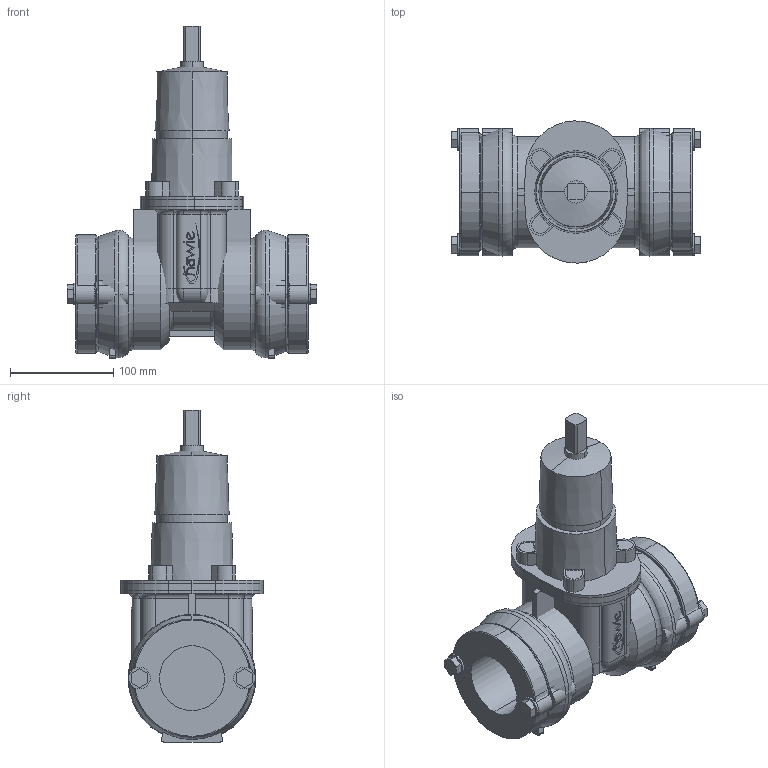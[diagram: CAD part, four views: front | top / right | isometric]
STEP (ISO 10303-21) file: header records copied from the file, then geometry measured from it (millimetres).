
FILE_DESCRIPTION(('STEP AP214'),'1');
FILE_NAME('S:/EK/USER/CAT6/3DHomepage/4040E2/4040E2-PN16-DN50.STP','2012-04-24T09:59:19',(' '),(' '),'Spatial InterOp 3D',' ',' ');
FILE_SCHEMA(('automotive_design'));
Length unit declared in the file: millimetre
Products named in the file (83): 3D-Objekt
Bounding box: 241.8 x 137.86 x 321.9 mm (x, y, z)
Volume: 3083137.3 mm3; surface area: 417898.5 mm2
Topology: 83 solids, 83 shells, 666 faces, 1472 edges, 978 vertices
Faces by surface type: plane 362, cylinder 242, torus 48, cone 14
Entity records: 25833 total; most frequent: DIRECTION 3612, CARTESIAN_POINT 3199, ORIENTED_EDGE 2944, EDGE_CURVE 1472, AXIS2_PLACEMENT_3D 1391, VERTEX_POINT 978, LINE 830, VECTOR 830
